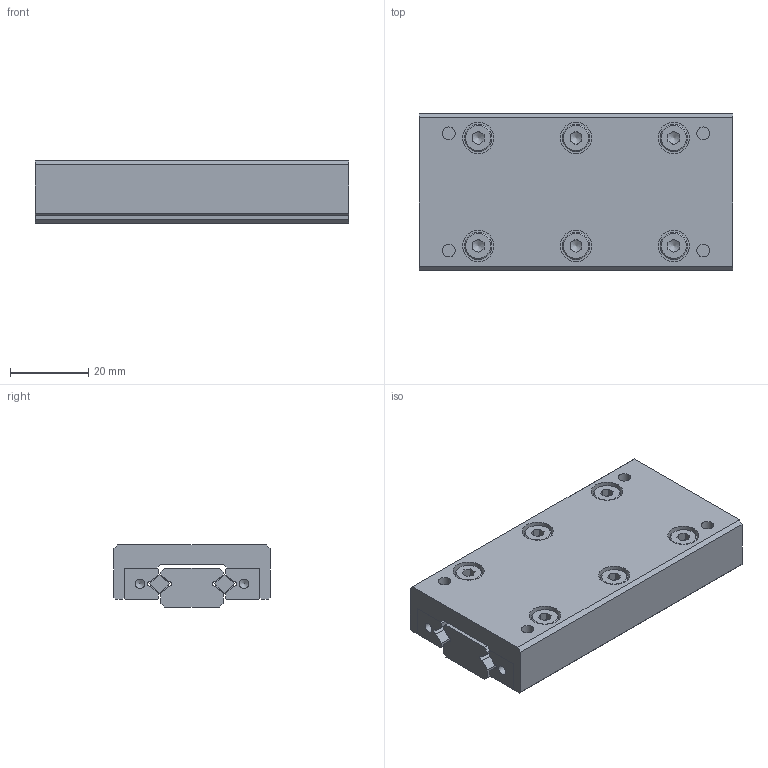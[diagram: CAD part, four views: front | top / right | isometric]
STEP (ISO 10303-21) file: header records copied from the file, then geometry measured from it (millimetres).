
FILE_DESCRIPTION((''),'2;1');
FILE_NAME('D:\製品 (図面)\カタログ用3D\リニアガイド関連\STEP形式\CRT3\CRT3080.stp','2010-07-29T15:48:26',('Tsuchiya'),(''),'Autodesk Inventor 10','Autodesk Inventor 10','');
FILE_SCHEMA(('AUTOMOTIVE_DESIGN { 1 0 10303 214 1 1 1 1 }'));
Length unit declared in the file: millimetre
Products named in the file (5): CRT3080; CRT30801; CRT30802; CRT30803; CRT30804
Assembly tree (4 placements, depth 2):
  CRT3080
    CRT30801
    CRT30802
    CRT30803
    CRT30804
Bounding box: 80 x 40 x 16 mm (x, y, z)
Volume: 41571.1 mm3; surface area: 21389.8 mm2
Topology: 4 solids, 10 shells, 283 faces, 662 edges, 436 vertices
Faces by surface type: plane 186, bspline 53, cylinder 24, cone 20
Full cylindrical faces by diameter (mm): 2.459 x2, 4 x12, 7 x6
Entity records: 7986 total; most frequent: CARTESIAN_POINT 1993, DIRECTION 1128, ORIENTED_EDGE 1116, EDGE_CURVE 558, EDGE_LOOP 422, VERTEX_POINT 408, VECTOR 394, LINE 394
